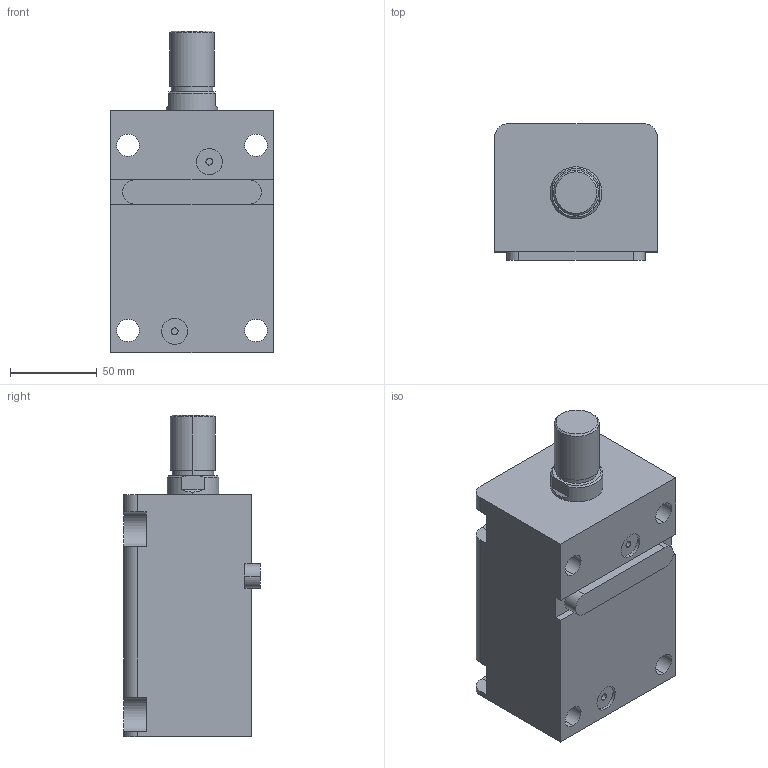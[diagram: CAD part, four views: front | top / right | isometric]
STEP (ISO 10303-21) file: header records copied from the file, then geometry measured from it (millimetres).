
FILE_DESCRIPTION (( 'STEP AP203' ), '1' );
FILE_NAME ('HTB-LAM50-80W.STEP', '2023-03-20T01:11:14', ( '微软用户' ), ( '微软中国' ), 'SwSTEP 2.0', 'SolidWorks 2012', '' );
FILE_SCHEMA (( 'CONFIG_CONTROL_DESIGN' ));
Length unit declared in the file: millimetre
Products named in the file (4): HTB-LAM50-80W; HTB-LWM50-瑩; HTB-LAM50-80W活塞杆; HTB-LAM50-80掛极
Assembly tree (3 placements, depth 2):
  HTB-LAM50-80W
    HTB-LAM50-80掛极
    HTB-LAM50-80W活塞杆
    HTB-LWM50-瑩
Bounding box: 94 x 79 x 186 mm (x, y, z)
Volume: 848758.5 mm3; surface area: 117804.7 mm2
Topology: 3 solids, 3 shells, 90 faces, 219 edges, 144 vertices
Faces by surface type: cylinder 41, plane 41, cone 4, torus 4
Entity records: 3107 total; most frequent: DIRECTION 497, CARTESIAN_POINT 487, ORIENTED_EDGE 438, EDGE_CURVE 219, AXIS2_PLACEMENT_3D 190, VERTEX_POINT 144, LINE 117, VECTOR 117
